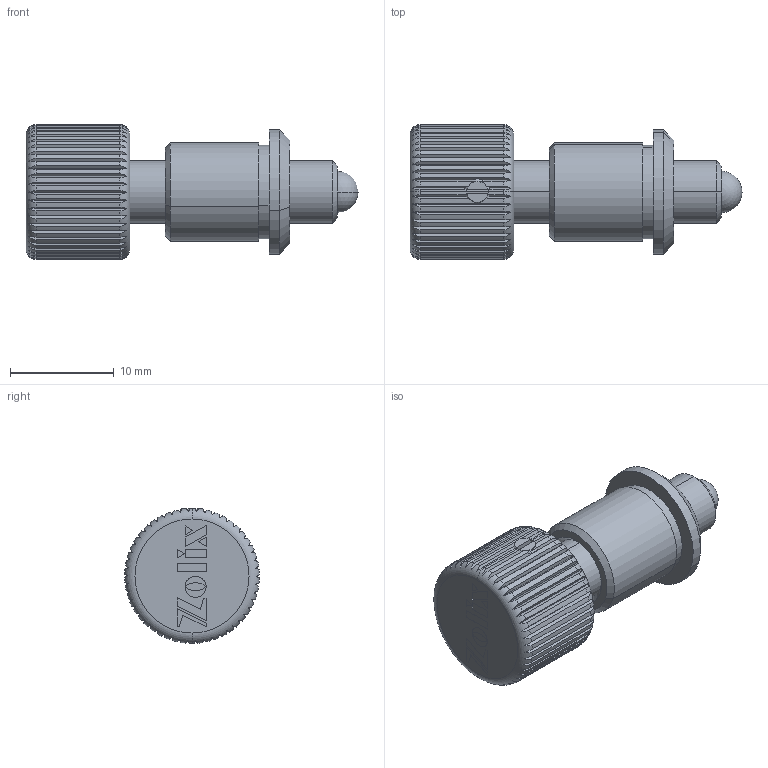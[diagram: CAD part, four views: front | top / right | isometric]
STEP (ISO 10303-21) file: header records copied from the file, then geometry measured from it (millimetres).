
FILE_DESCRIPTION (( 'STEP AP203' ), '1' );
FILE_NAME ('ACFS06-2A.step', '2019-05-09T08:53:52', ( '' ), ( '' ), 'SwSTEP 2.0', 'SolidWorks 2016', '' );
FILE_SCHEMA (( 'CONFIG_CONTROL_DESIGN' ));
Length unit declared in the file: millimetre
Products named in the file (1): ACFS06-2A
Bounding box: 32 x 13 x 13 mm (x, y, z)
Surface area: 1871.4 mm2 (no closed solid volume)
Topology: 0 solids, 5 shells, 241 faces, 903 edges, 661 vertices
Faces by surface type: plane 157, cylinder 66, cone 12, torus 4, sphere 2
Entity records: 10196 total; most frequent: CARTESIAN_POINT 2908, ORIENTED_EDGE 1526, DIRECTION 1318, EDGE_CURVE 898, VERTEX_POINT 658, LINE 518, VECTOR 518, AXIS2_PLACEMENT_3D 400
